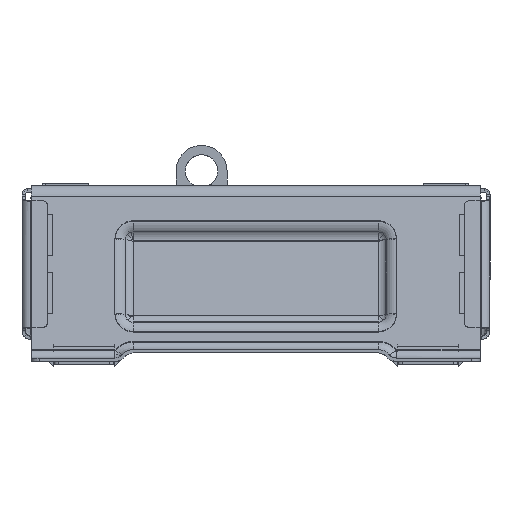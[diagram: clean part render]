
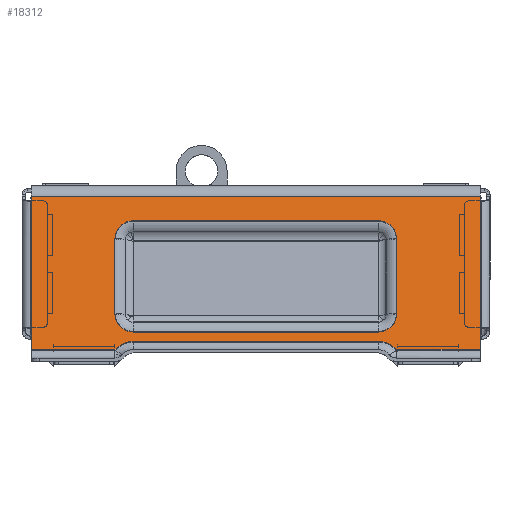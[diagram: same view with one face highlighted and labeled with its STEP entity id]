
A CAD part, left-side view. The second image highlights one B-rep face of the part: STEP entity #18312.
In plain terms, the highlighted planar face has unit normal (-0.979, 0, 0.203).
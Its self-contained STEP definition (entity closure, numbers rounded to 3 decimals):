
#17545=CARTESIAN_POINT('Vertex',(-493.009,-526.85,9.683)) ;
#17548=CARTESIAN_POINT('Line Origine',(-483.653,-526.85,54.853)) ;
#17552=CARTESIAN_POINT('Vertex',(-474.296,-526.85,100.023)) ;
#17673=CARTESIAN_POINT('Vertex',(-474.296,-790.85,100.023)) ;
#17676=CARTESIAN_POINT('Line Origine',(-483.653,-790.85,54.853)) ;
#17680=CARTESIAN_POINT('Vertex',(-493.009,-790.85,9.683)) ;
#18172=CARTESIAN_POINT('Vertex',(-493.009,-576.127,9.683)) ;
#18175=CARTESIAN_POINT('Line Origine',(-493.009,-658.85,9.683)) ;
#18188=CARTESIAN_POINT('Axis2P3D Location',(-472.976,-658.85,106.4)) ;
#18194=CARTESIAN_POINT('Control Point',(-491.974,-586.85,14.683)) ;
#18195=CARTESIAN_POINT('Control Point',(-491.974,-585.578,14.683)) ;
#18196=CARTESIAN_POINT('Control Point',(-492.003,-584.306,14.539)) ;
#18197=CARTESIAN_POINT('Control Point',(-492.063,-583.058,14.249)) ;
#18198=CARTESIAN_POINT('Control Point',(-492.234,-580.734,13.424)) ;
#18199=CARTESIAN_POINT('Control Point',(-492.504,-578.654,12.124)) ;
#18200=CARTESIAN_POINT('Control Point',(-492.655,-577.723,11.396)) ;
#18201=CARTESIAN_POINT('Control Point',(-492.824,-576.877,10.577)) ;
#18202=CARTESIAN_POINT('Control Point',(-493.009,-576.127,9.683)) ;
#18203=CARTESIAN_POINT('Vertex',(-491.974,-586.85,14.683)) ;
#18206=CARTESIAN_POINT('Line Origine',(-491.974,-658.85,14.683)) ;
#18210=CARTESIAN_POINT('Vertex',(-491.974,-730.85,14.683)) ;
#18214=CARTESIAN_POINT('Control Point',(-493.009,-741.574,9.683)) ;
#18215=CARTESIAN_POINT('Control Point',(-492.808,-740.76,10.653)) ;
#18216=CARTESIAN_POINT('Control Point',(-492.626,-739.834,11.534)) ;
#18217=CARTESIAN_POINT('Control Point',(-492.466,-738.808,12.308)) ;
#18218=CARTESIAN_POINT('Control Point',(-492.208,-736.69,13.554)) ;
#18219=CARTESIAN_POINT('Control Point',(-492.05,-734.347,14.315)) ;
#18220=CARTESIAN_POINT('Control Point',(-491.999,-733.193,14.56)) ;
#18221=CARTESIAN_POINT('Control Point',(-491.974,-732.022,14.683)) ;
#18222=CARTESIAN_POINT('Control Point',(-491.974,-730.85,14.683)) ;
#18223=CARTESIAN_POINT('Vertex',(-493.009,-741.574,9.683)) ;
#18226=CARTESIAN_POINT('Line Origine',(-493.009,-766.212,9.683)) ;
#18231=CARTESIAN_POINT('Line Origine',(-474.296,-658.85,100.023)) ;
#18246=CARTESIAN_POINT('Line Origine',(-477.292,-658.85,85.561)) ;
#18250=CARTESIAN_POINT('Vertex',(-477.292,-730.85,85.561)) ;
#18252=CARTESIAN_POINT('Vertex',(-477.292,-586.85,85.561)) ;
#18255=CARTESIAN_POINT('Axis2P3D Location',(-479.467,-730.85,75.06)) ;
#18259=CARTESIAN_POINT('Vertex',(-479.467,-741.574,75.06)) ;
#18262=CARTESIAN_POINT('Line Origine',(-484.024,-741.574,53.06)) ;
#18266=CARTESIAN_POINT('Vertex',(-488.581,-741.574,31.06)) ;
#18269=CARTESIAN_POINT('Axis2P3D Location',(-488.581,-730.85,31.06)) ;
#18273=CARTESIAN_POINT('Vertex',(-490.756,-730.85,20.559)) ;
#18276=CARTESIAN_POINT('Line Origine',(-490.756,-658.85,20.559)) ;
#18280=CARTESIAN_POINT('Vertex',(-490.756,-586.85,20.559)) ;
#18283=CARTESIAN_POINT('Axis2P3D Location',(-488.581,-586.85,31.06)) ;
#18287=CARTESIAN_POINT('Vertex',(-488.581,-576.127,31.06)) ;
#18290=CARTESIAN_POINT('Line Origine',(-484.024,-576.127,53.06)) ;
#18294=CARTESIAN_POINT('Vertex',(-479.467,-576.127,75.06)) ;
#18297=CARTESIAN_POINT('Axis2P3D Location',(-479.467,-586.85,75.06)) ;
#17549=DIRECTION('Vector Direction',(-0.203,0.,-0.979)) ;
#17677=DIRECTION('Vector Direction',(-0.203,0.,-0.979)) ;
#18176=DIRECTION('Vector Direction',(0.,1.,0.)) ;
#18189=DIRECTION('Axis2P3D Direction',(0.979,0.,-0.203)) ;
#18190=DIRECTION('Axis2P3D XDirection',(-0.203,0.,-0.979)) ;
#18207=DIRECTION('Vector Direction',(0.,-1.,0.)) ;
#18227=DIRECTION('Vector Direction',(0.,1.,0.)) ;
#18232=DIRECTION('Vector Direction',(0.,1.,0.)) ;
#18247=DIRECTION('Vector Direction',(0.,-1.,0.)) ;
#18256=DIRECTION('Axis2P3D Direction',(0.979,0.,-0.203)) ;
#18263=DIRECTION('Vector Direction',(-0.203,0.,-0.979)) ;
#18270=DIRECTION('Axis2P3D Direction',(0.979,0.,-0.203)) ;
#18277=DIRECTION('Vector Direction',(0.,1.,0.)) ;
#18284=DIRECTION('Axis2P3D Direction',(0.979,0.,-0.203)) ;
#18291=DIRECTION('Vector Direction',(0.203,0.,0.979)) ;
#18298=DIRECTION('Axis2P3D Direction',(0.979,0.,-0.203)) ;
#18191=AXIS2_PLACEMENT_3D('Plane Axis2P3D',#18188,#18189,#18190) ;
#18257=AXIS2_PLACEMENT_3D('Circle Axis2P3D',#18255,#18256,$) ;
#18271=AXIS2_PLACEMENT_3D('Circle Axis2P3D',#18269,#18270,$) ;
#18285=AXIS2_PLACEMENT_3D('Circle Axis2P3D',#18283,#18284,$) ;
#18299=AXIS2_PLACEMENT_3D('Circle Axis2P3D',#18297,#18298,$) ;
#18237=ORIENTED_EDGE('',*,*,#17554,.T.) ;
#18238=ORIENTED_EDGE('',*,*,#18179,.F.) ;
#18239=ORIENTED_EDGE('',*,*,#18205,.F.) ;
#18240=ORIENTED_EDGE('',*,*,#18212,.F.) ;
#18241=ORIENTED_EDGE('',*,*,#18225,.F.) ;
#18242=ORIENTED_EDGE('',*,*,#18230,.F.) ;
#18243=ORIENTED_EDGE('',*,*,#17682,.F.) ;
#18244=ORIENTED_EDGE('',*,*,#18235,.T.) ;
#18303=ORIENTED_EDGE('',*,*,#18254,.F.) ;
#18304=ORIENTED_EDGE('',*,*,#18261,.F.) ;
#18305=ORIENTED_EDGE('',*,*,#18268,.F.) ;
#18306=ORIENTED_EDGE('',*,*,#18275,.F.) ;
#18307=ORIENTED_EDGE('',*,*,#18282,.F.) ;
#18308=ORIENTED_EDGE('',*,*,#18289,.F.) ;
#18309=ORIENTED_EDGE('',*,*,#18296,.F.) ;
#18310=ORIENTED_EDGE('',*,*,#18301,.F.) ;
#18311=FACE_BOUND('',#18302,.T.) ;
#17550=VECTOR('Line Direction',#17549,1.) ;
#17678=VECTOR('Line Direction',#17677,1.) ;
#18177=VECTOR('Line Direction',#18176,1.) ;
#18208=VECTOR('Line Direction',#18207,1.) ;
#18228=VECTOR('Line Direction',#18227,1.) ;
#18233=VECTOR('Line Direction',#18232,1.) ;
#18248=VECTOR('Line Direction',#18247,1.) ;
#18264=VECTOR('Line Direction',#18263,1.) ;
#18278=VECTOR('Line Direction',#18277,1.) ;
#18292=VECTOR('Line Direction',#18291,1.) ;
#18312=ADVANCED_FACE('\X2\4E2D5BBD8F664E3B9A7E9A765E9590E8652F67B6710A63A5603B6210\X0\-.1\\SHT0015987.1\\SHT0016188-\X2\4E2D5BBD8F664E3B9A7E9A76524D4FA794A391D1\X0\',(#18245,#18311),#18192,.F.) ;
#18193=B_SPLINE_CURVE_WITH_KNOTS('',5,(#18194,#18195,#18196,#18197,#18198,#18199,#18200,#18201,#18202),.UNSPECIFIED.,.F.,.U.,(6,3,6),(0.,9.007,17.392),.UNSPECIFIED.) ;
#18213=B_SPLINE_CURVE_WITH_KNOTS('',5,(#18214,#18215,#18216,#18217,#18218,#18219,#18220,#18221,#18222),.UNSPECIFIED.,.F.,.U.,(6,3,6),(0.,9.096,17.391),.UNSPECIFIED.) ;
#18258=CIRCLE('generated circle',#18257,10.724) ;
#18272=CIRCLE('generated circle',#18271,10.724) ;
#18286=CIRCLE('generated circle',#18285,10.724) ;
#18300=CIRCLE('generated circle',#18299,10.724) ;
#17554=EDGE_CURVE('',#17553,#17546,#17551,.T.) ;
#17682=EDGE_CURVE('',#17674,#17681,#17679,.T.) ;
#18179=EDGE_CURVE('',#18173,#17546,#18178,.T.) ;
#18205=EDGE_CURVE('',#18204,#18173,#18193,.T.) ;
#18212=EDGE_CURVE('',#18211,#18204,#18209,.F.) ;
#18225=EDGE_CURVE('',#18224,#18211,#18213,.T.) ;
#18230=EDGE_CURVE('',#17681,#18224,#18229,.T.) ;
#18235=EDGE_CURVE('',#17674,#17553,#18234,.T.) ;
#18254=EDGE_CURVE('',#18251,#18253,#18249,.F.) ;
#18261=EDGE_CURVE('',#18260,#18251,#18258,.F.) ;
#18268=EDGE_CURVE('',#18267,#18260,#18265,.F.) ;
#18275=EDGE_CURVE('',#18274,#18267,#18272,.F.) ;
#18282=EDGE_CURVE('',#18281,#18274,#18279,.F.) ;
#18289=EDGE_CURVE('',#18288,#18281,#18286,.F.) ;
#18296=EDGE_CURVE('',#18295,#18288,#18293,.F.) ;
#18301=EDGE_CURVE('',#18253,#18295,#18300,.F.) ;
#18236=EDGE_LOOP('',(#18237,#18238,#18239,#18240,#18241,#18242,#18243,#18244)) ;
#18302=EDGE_LOOP('',(#18303,#18304,#18305,#18306,#18307,#18308,#18309,#18310)) ;
#18245=FACE_OUTER_BOUND('',#18236,.T.) ;
#17551=LINE('Line',#17548,#17550) ;
#17679=LINE('Line',#17676,#17678) ;
#18178=LINE('Line',#18175,#18177) ;
#18209=LINE('Line',#18206,#18208) ;
#18229=LINE('Line',#18226,#18228) ;
#18234=LINE('Line',#18231,#18233) ;
#18249=LINE('Line',#18246,#18248) ;
#18265=LINE('Line',#18262,#18264) ;
#18279=LINE('Line',#18276,#18278) ;
#18293=LINE('Line',#18290,#18292) ;
#18192=PLANE('Plane',#18191) ;
#17546=VERTEX_POINT('',#17545) ;
#17553=VERTEX_POINT('',#17552) ;
#17674=VERTEX_POINT('',#17673) ;
#17681=VERTEX_POINT('',#17680) ;
#18173=VERTEX_POINT('',#18172) ;
#18204=VERTEX_POINT('',#18203) ;
#18211=VERTEX_POINT('',#18210) ;
#18224=VERTEX_POINT('',#18223) ;
#18251=VERTEX_POINT('',#18250) ;
#18253=VERTEX_POINT('',#18252) ;
#18260=VERTEX_POINT('',#18259) ;
#18267=VERTEX_POINT('',#18266) ;
#18274=VERTEX_POINT('',#18273) ;
#18281=VERTEX_POINT('',#18280) ;
#18288=VERTEX_POINT('',#18287) ;
#18295=VERTEX_POINT('',#18294) ;
